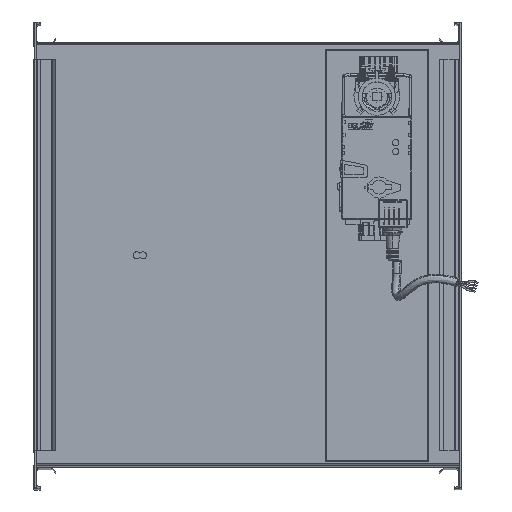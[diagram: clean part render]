
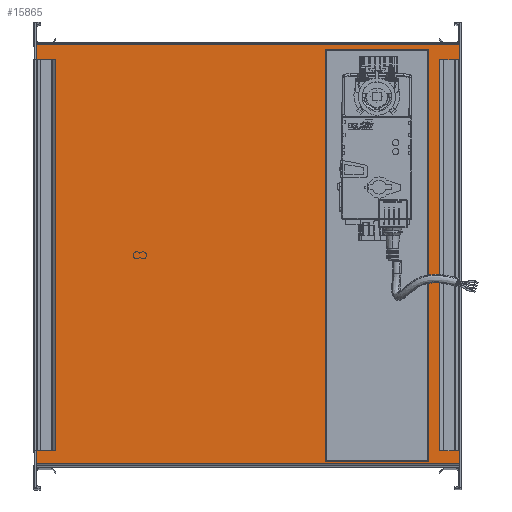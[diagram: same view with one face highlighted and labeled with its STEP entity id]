
A CAD part, top view. The second image highlights one B-rep face of the part: STEP entity #15865.
In plain terms, the highlighted planar face has unit normal (0, 0, 1).
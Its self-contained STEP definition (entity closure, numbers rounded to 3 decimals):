
#1840 = AXIS2_PLACEMENT_3D ( 'NONE', #53931, #74156, #17643 ) ;
#4505 = ORIENTED_EDGE ( 'NONE', *, *, #10801, .T. ) ;
#5759 = CARTESIAN_POINT ( 'NONE',  ( 28.752, -182.038, 1550. ) ) ;
#7365 = ORIENTED_EDGE ( 'NONE', *, *, #20168, .F. ) ;
#9162 = ORIENTED_EDGE ( 'NONE', *, *, #15732, .F. ) ;
#10801 = EDGE_CURVE ( 'NONE', #43758, #68513, #56746, .T. ) ;
#11456 = VECTOR ( 'NONE', #24919, 1000. ) ;
#12849 = VERTEX_POINT ( 'NONE', #29741 ) ;
#13955 = DIRECTION ( 'NONE',  ( 1., 0., 0. ) ) ;
#14841 = LINE ( 'NONE', #72760, #71093 ) ;
#15278 = DIRECTION ( 'NONE',  ( 0., -1., 0. ) ) ;
#15417 = VERTEX_POINT ( 'NONE', #27161 ) ;
#15732 = EDGE_CURVE ( 'NONE', #67573, #80081, #14841, .T. ) ;
#15865 = ADVANCED_FACE ( 'NONE', ( #31802, #25205 ), #89198, .T. ) ;
#16903 = CARTESIAN_POINT ( 'NONE',  ( -244.423, -183.848, 1550. ) ) ;
#17643 = DIRECTION ( 'NONE',  ( 1., 0., 0. ) ) ;
#20168 = EDGE_CURVE ( 'NONE', #43758, #67573, #21017, .T. ) ;
#21017 = LINE ( 'NONE', #42243, #62424 ) ;
#24494 = CARTESIAN_POINT ( 'NONE',  ( 126.752, 207.962, 1550. ) ) ;
#24919 = DIRECTION ( 'NONE',  ( -1., 0., 0. ) ) ;
#25205 = FACE_BOUND ( 'NONE', #71446, .T. ) ;
#27161 = CARTESIAN_POINT ( 'NONE',  ( 28.752, 207.962, 1550. ) ) ;
#28294 = VECTOR ( 'NONE', #34526, 1000. ) ;
#29741 = CARTESIAN_POINT ( 'NONE',  ( 28.752, -182.038, 1550. ) ) ;
#31802 = FACE_OUTER_BOUND ( 'NONE', #48017, .T. ) ;
#31809 = CARTESIAN_POINT ( 'NONE',  ( 126.752, -182.038, 1550. ) ) ;
#32977 = DIRECTION ( 'NONE',  ( 1., 0., 0. ) ) ;
#34165 = VECTOR ( 'NONE', #54398, 1000. ) ;
#34526 = DIRECTION ( 'NONE',  ( 1., 0., 0. ) ) ;
#38067 = ORIENTED_EDGE ( 'NONE', *, *, #91811, .F. ) ;
#42243 = CARTESIAN_POINT ( 'NONE',  ( -244.423, 212.152, 1550. ) ) ;
#43758 = VERTEX_POINT ( 'NONE', #93221 ) ;
#44051 = CARTESIAN_POINT ( 'NONE',  ( 28.752, -182.038, 1550. ) ) ;
#44352 = ORIENTED_EDGE ( 'NONE', *, *, #64579, .F. ) ;
#48017 = EDGE_LOOP ( 'NONE', ( #9162, #7365, #4505, #82542 ) ) ;
#48642 = LINE ( 'NONE', #5759, #28294 ) ;
#50214 = CARTESIAN_POINT ( 'NONE',  ( 155.577, -183.848, 1550. ) ) ;
#50412 = VERTEX_POINT ( 'NONE', #60423 ) ;
#53931 = CARTESIAN_POINT ( 'NONE',  ( -244.423, -183.848, 1550. ) ) ;
#54398 = DIRECTION ( 'NONE',  ( 0., 1., 0. ) ) ;
#55291 = VERTEX_POINT ( 'NONE', #24494 ) ;
#55367 = DIRECTION ( 'NONE',  ( 0., -1., 0. ) ) ;
#56746 = LINE ( 'NONE', #91110, #87336 ) ;
#57699 = LINE ( 'NONE', #44051, #82820 ) ;
#57982 = EDGE_CURVE ( 'NONE', #68513, #80081, #81428, .T. ) ;
#60423 = CARTESIAN_POINT ( 'NONE',  ( 126.752, -182.038, 1550. ) ) ;
#62424 = VECTOR ( 'NONE', #13955, 1000. ) ;
#63223 = CARTESIAN_POINT ( 'NONE',  ( 155.577, 212.152, 1550. ) ) ;
#64579 = EDGE_CURVE ( 'NONE', #15417, #12849, #57699, .T. ) ;
#65725 = DIRECTION ( 'NONE',  ( 0., -1., 0. ) ) ;
#66001 = EDGE_CURVE ( 'NONE', #55291, #15417, #82362, .T. ) ;
#67552 = LINE ( 'NONE', #31809, #34165 ) ;
#67572 = EDGE_CURVE ( 'NONE', #12849, #50412, #48642, .T. ) ;
#67573 = VERTEX_POINT ( 'NONE', #63223 ) ;
#68513 = VERTEX_POINT ( 'NONE', #73503 ) ;
#71093 = VECTOR ( 'NONE', #65725, 1000. ) ;
#71446 = EDGE_LOOP ( 'NONE', ( #81710, #38067, #89965, #44352 ) ) ;
#72760 = CARTESIAN_POINT ( 'NONE',  ( 155.577, -183.848, 1550. ) ) ;
#73503 = CARTESIAN_POINT ( 'NONE',  ( -244.423, -183.848, 1550. ) ) ;
#74156 = DIRECTION ( 'NONE',  ( 0., 0., 1. ) ) ;
#80081 = VERTEX_POINT ( 'NONE', #50214 ) ;
#81409 = CARTESIAN_POINT ( 'NONE',  ( 28.752, 207.962, 1550. ) ) ;
#81428 = LINE ( 'NONE', #16903, #84946 ) ;
#81710 = ORIENTED_EDGE ( 'NONE', *, *, #66001, .F. ) ;
#82362 = LINE ( 'NONE', #81409, #11456 ) ;
#82542 = ORIENTED_EDGE ( 'NONE', *, *, #57982, .T. ) ;
#82820 = VECTOR ( 'NONE', #15278, 1000. ) ;
#84946 = VECTOR ( 'NONE', #32977, 1000. ) ;
#87336 = VECTOR ( 'NONE', #55367, 1000. ) ;
#89198 = PLANE ( 'NONE',  #1840 ) ;
#89965 = ORIENTED_EDGE ( 'NONE', *, *, #67572, .F. ) ;
#91110 = CARTESIAN_POINT ( 'NONE',  ( -244.423, -183.848, 1550. ) ) ;
#91811 = EDGE_CURVE ( 'NONE', #50412, #55291, #67552, .T. ) ;
#93221 = CARTESIAN_POINT ( 'NONE',  ( -244.423, 212.152, 1550. ) ) ;
